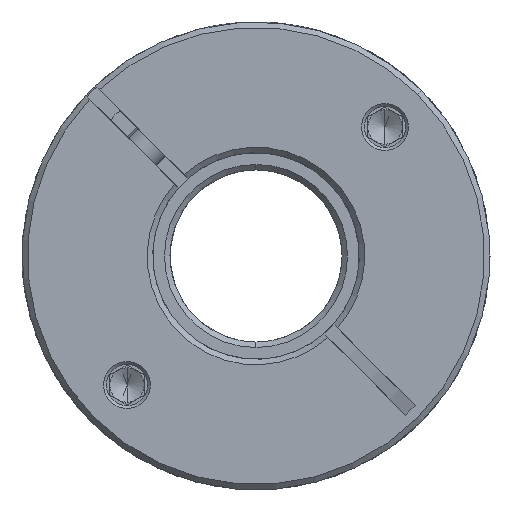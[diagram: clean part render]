
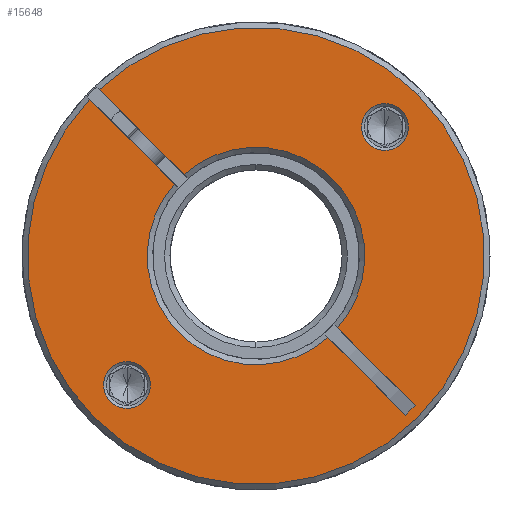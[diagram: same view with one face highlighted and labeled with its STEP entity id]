
A CAD part, front view. The second image highlights one B-rep face of the part: STEP entity #15648.
In plain terms, the highlighted planar face has unit normal (0, -1, 0).
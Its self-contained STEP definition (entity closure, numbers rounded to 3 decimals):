
#37 = CIRCLE ( 'NONE', #16835, 15.8 ) ;
#88 = EDGE_CURVE ( 'NONE', #16631, #2455, #12525, .T. ) ;
#178 = LINE ( 'NONE', #15528, #18793 ) ;
#879 = DIRECTION ( 'NONE',  ( 0., -1., 0. ) ) ;
#896 = CIRCLE ( 'NONE', #3290, 3.4 ) ;
#1016 = DIRECTION ( 'NONE',  ( 0., 1., 0. ) ) ;
#1333 = LINE ( 'NONE', #15058, #12676 ) ;
#1361 = FACE_BOUND ( 'NONE', #19782, .T. ) ;
#1495 = AXIS2_PLACEMENT_3D ( 'NONE', #21302, #13028, #6306 ) ;
#1573 = CARTESIAN_POINT ( 'NONE',  ( -3.442, -67.045, 67.293 ) ) ;
#1710 = CARTESIAN_POINT ( 'NONE',  ( -26.908, -67.045, 90.758 ) ) ;
#2184 = DIRECTION ( 'NONE',  ( 0., 1., 0. ) ) ;
#2455 = VERTEX_POINT ( 'NONE', #10154 ) ;
#2552 = EDGE_CURVE ( 'NONE', #16631, #19634, #18949, .T. ) ;
#2556 = VERTEX_POINT ( 'NONE', #8874 ) ;
#2593 = ORIENTED_EDGE ( 'NONE', *, *, #12076, .T. ) ;
#2841 = ORIENTED_EDGE ( 'NONE', *, *, #20133, .T. ) ;
#2913 = DIRECTION ( 'NONE',  ( 0.707, 0., 0.707 ) ) ;
#3180 = FACE_BOUND ( 'NONE', #4713, .T. ) ;
#3290 = AXIS2_PLACEMENT_3D ( 'NONE', #13063, #9666, #14770 ) ;
#3976 = CARTESIAN_POINT ( 'NONE',  ( 20.741, -67.045, 91.476 ) ) ;
#4090 = ORIENTED_EDGE ( 'NONE', *, *, #8943, .T. ) ;
#4272 = DIRECTION ( 'NONE',  ( 0.707, 0., 0.707 ) ) ;
#4320 = AXIS2_PLACEMENT_3D ( 'NONE', #11664, #14758, #13401 ) ;
#4441 = AXIS2_PLACEMENT_3D ( 'NONE', #9464, #4707, #2913 ) ;
#4645 = ORIENTED_EDGE ( 'NONE', *, *, #9020, .T. ) ;
#4707 = DIRECTION ( 'NONE',  ( 0., -1., 0. ) ) ;
#4713 = EDGE_LOOP ( 'NONE', ( #4645, #17930 ) ) ;
#5714 = CARTESIAN_POINT ( 'NONE',  ( 13.599, -67.045, 84.334 ) ) ;
#6296 = CARTESIAN_POINT ( 'NONE',  ( -14.592, -67.045, 78.443 ) ) ;
#6306 = DIRECTION ( 'NONE',  ( 0.707, 0., 0.707 ) ) ;
#6367 = VECTOR ( 'NONE', #18977, 1000. ) ;
#6809 = DIRECTION ( 'NONE',  ( 0.707, 0., 0.707 ) ) ;
#6918 = DIRECTION ( 'NONE',  ( 0.707, 0., -0.707 ) ) ;
#7101 = ORIENTED_EDGE ( 'NONE', *, *, #2552, .F. ) ;
#7184 = AXIS2_PLACEMENT_3D ( 'NONE', #11113, #1016, #4272 ) ;
#7830 = AXIS2_PLACEMENT_3D ( 'NONE', #15823, #14595, #13018 ) ;
#8403 = CARTESIAN_POINT ( 'NONE',  ( 16.003, -67.045, 86.738 ) ) ;
#8427 = EDGE_CURVE ( 'NONE', #2556, #19334, #896, .T. ) ;
#8552 = EDGE_CURVE ( 'NONE', #20358, #17697, #11213, .T. ) ;
#8610 = CARTESIAN_POINT ( 'NONE',  ( 9.122, -67.045, 57.557 ) ) ;
#8859 = ORIENTED_EDGE ( 'NONE', *, *, #14654, .T. ) ;
#8874 = CARTESIAN_POINT ( 'NONE',  ( -19.069, -67.045, 51.666 ) ) ;
#8938 = DIRECTION ( 'NONE',  ( 0.707, 0., -0.707 ) ) ;
#8943 = EDGE_CURVE ( 'NONE', #19334, #2556, #14819, .T. ) ;
#9020 = EDGE_CURVE ( 'NONE', #17307, #18140, #18443, .T. ) ;
#9335 = EDGE_CURVE ( 'NONE', #11578, #11784, #37, .T. ) ;
#9464 = CARTESIAN_POINT ( 'NONE',  ( -2.735, -67.045, 68. ) ) ;
#9541 = AXIS2_PLACEMENT_3D ( 'NONE', #8403, #19942, #6809 ) ;
#9666 = DIRECTION ( 'NONE',  ( 0., 1., 0. ) ) ;
#9738 = CIRCLE ( 'NONE', #17482, 33.2 ) ;
#9751 = EDGE_CURVE ( 'NONE', #14396, #14468, #1333, .T. ) ;
#9797 = VERTEX_POINT ( 'NONE', #15624 ) ;
#9810 = CARTESIAN_POINT ( 'NONE',  ( 7.708, -67.045, 56.143 ) ) ;
#10154 = CARTESIAN_POINT ( 'NONE',  ( -26.211, -67.045, 44.524 ) ) ;
#10291 = DIRECTION ( 'NONE',  ( 0.707, 0., 0.707 ) ) ;
#10319 = ORIENTED_EDGE ( 'NONE', *, *, #17282, .T. ) ;
#10321 = CARTESIAN_POINT ( 'NONE',  ( -2.735, -67.045, 68. ) ) ;
#10752 = EDGE_CURVE ( 'NONE', #18140, #17307, #14957, .T. ) ;
#10819 = ORIENTED_EDGE ( 'NONE', *, *, #9751, .T. ) ;
#10885 = DIRECTION ( 'NONE',  ( 0., 1., 0. ) ) ;
#11025 = VERTEX_POINT ( 'NONE', #3976 ) ;
#11113 = CARTESIAN_POINT ( 'NONE',  ( -21.473, -67.045, 49.262 ) ) ;
#11213 = LINE ( 'NONE', #1573, #11487 ) ;
#11487 = VECTOR ( 'NONE', #13118, 1000. ) ;
#11578 = VERTEX_POINT ( 'NONE', #14034 ) ;
#11664 = CARTESIAN_POINT ( 'NONE',  ( -2.735, -67.045, 68. ) ) ;
#11684 = CARTESIAN_POINT ( 'NONE',  ( -23.878, -67.045, 46.858 ) ) ;
#11784 = VERTEX_POINT ( 'NONE', #17194 ) ;
#12076 = EDGE_CURVE ( 'NONE', #14468, #17697, #178, .T. ) ;
#12143 = DIRECTION ( 'NONE',  ( 0.707, 0., 0.707 ) ) ;
#12260 = CARTESIAN_POINT ( 'NONE',  ( -2.028, -67.045, 68.707 ) ) ;
#12277 = ORIENTED_EDGE ( 'NONE', *, *, #8552, .F. ) ;
#12525 = CIRCLE ( 'NONE', #7830, 33.2 ) ;
#12676 = VECTOR ( 'NONE', #6918, 1000. ) ;
#13018 = DIRECTION ( 'NONE',  ( 0.707, 0., 0.707 ) ) ;
#13028 = DIRECTION ( 'NONE',  ( 0., 1., 0. ) ) ;
#13063 = CARTESIAN_POINT ( 'NONE',  ( -21.473, -67.045, 49.262 ) ) ;
#13118 = DIRECTION ( 'NONE',  ( 0.707, 0., -0.707 ) ) ;
#13160 = ORIENTED_EDGE ( 'NONE', *, *, #8427, .T. ) ;
#13401 = DIRECTION ( 'NONE',  ( 0.707, 0., 0.707 ) ) ;
#14034 = CARTESIAN_POINT ( 'NONE',  ( -13.178, -67.045, 79.857 ) ) ;
#14129 = DIRECTION ( 'NONE',  ( 0.707, 0., 0.707 ) ) ;
#14210 = CARTESIAN_POINT ( 'NONE',  ( -2.735, -67.045, 68. ) ) ;
#14396 = VERTEX_POINT ( 'NONE', #8610 ) ;
#14468 = VERTEX_POINT ( 'NONE', #20488 ) ;
#14507 = CIRCLE ( 'NONE', #1495, 15.8 ) ;
#14514 = FACE_OUTER_BOUND ( 'NONE', #18669, .T. ) ;
#14595 = DIRECTION ( 'NONE',  ( 0., -1., 0. ) ) ;
#14639 = CIRCLE ( 'NONE', #17920, 15.8 ) ;
#14654 = EDGE_CURVE ( 'NONE', #11025, #9797, #16850, .T. ) ;
#14758 = DIRECTION ( 'NONE',  ( 0., -1., 0. ) ) ;
#14770 = DIRECTION ( 'NONE',  ( 0.707, 0., 0.707 ) ) ;
#14792 = ORIENTED_EDGE ( 'NONE', *, *, #17742, .T. ) ;
#14798 = VECTOR ( 'NONE', #8938, 1000. ) ;
#14819 = CIRCLE ( 'NONE', #7184, 3.4 ) ;
#14957 = CIRCLE ( 'NONE', #9541, 3.4 ) ;
#15058 = CARTESIAN_POINT ( 'NONE',  ( -2.028, -67.045, 68.707 ) ) ;
#15528 = CARTESIAN_POINT ( 'NONE',  ( 18.988, -67.045, 44.862 ) ) ;
#15624 = CARTESIAN_POINT ( 'NONE',  ( -25.493, -67.045, 92.172 ) ) ;
#15648 = ADVANCED_FACE ( 'NONE', ( #3180, #1361, #14514 ), #16620, .T. ) ;
#15733 = ORIENTED_EDGE ( 'NONE', *, *, #9335, .T. ) ;
#15780 = CARTESIAN_POINT ( 'NONE',  ( -2.735, -67.045, 68. ) ) ;
#15823 = CARTESIAN_POINT ( 'NONE',  ( -2.735, -67.045, 68. ) ) ;
#16620 = PLANE ( 'NONE',  #4320 ) ;
#16631 = VERTEX_POINT ( 'NONE', #1710 ) ;
#16835 = AXIS2_PLACEMENT_3D ( 'NONE', #15780, #20684, #10291 ) ;
#16850 = CIRCLE ( 'NONE', #4441, 33.2 ) ;
#17194 = CARTESIAN_POINT ( 'NONE',  ( 8.437, -67.045, 79.172 ) ) ;
#17196 = DIRECTION ( 'NONE',  ( -0.707, 0., -0.707 ) ) ;
#17211 = EDGE_CURVE ( 'NONE', #20358, #19634, #14639, .T. ) ;
#17282 = EDGE_CURVE ( 'NONE', #2455, #11025, #9738, .T. ) ;
#17307 = VERTEX_POINT ( 'NONE', #20554 ) ;
#17482 = AXIS2_PLACEMENT_3D ( 'NONE', #14210, #879, #20625 ) ;
#17697 = VERTEX_POINT ( 'NONE', #18916 ) ;
#17742 = EDGE_CURVE ( 'NONE', #9797, #11578, #18234, .T. ) ;
#17920 = AXIS2_PLACEMENT_3D ( 'NONE', #10321, #2184, #12143 ) ;
#17930 = ORIENTED_EDGE ( 'NONE', *, *, #10752, .T. ) ;
#18140 = VERTEX_POINT ( 'NONE', #5714 ) ;
#18234 = LINE ( 'NONE', #12260, #6367 ) ;
#18321 = ORIENTED_EDGE ( 'NONE', *, *, #17211, .T. ) ;
#18443 = CIRCLE ( 'NONE', #19743, 3.4 ) ;
#18669 = EDGE_LOOP ( 'NONE', ( #7101, #19118, #10319, #8859, #14792, #15733, #2841, #10819, #2593, #12277, #18321 ) ) ;
#18793 = VECTOR ( 'NONE', #17196, 1000. ) ;
#18916 = CARTESIAN_POINT ( 'NONE',  ( 18.988, -67.045, 44.862 ) ) ;
#18949 = LINE ( 'NONE', #20389, #14798 ) ;
#18977 = DIRECTION ( 'NONE',  ( 0.707, 0., -0.707 ) ) ;
#19118 = ORIENTED_EDGE ( 'NONE', *, *, #88, .T. ) ;
#19205 = CARTESIAN_POINT ( 'NONE',  ( 16.003, -67.045, 86.738 ) ) ;
#19334 = VERTEX_POINT ( 'NONE', #11684 ) ;
#19634 = VERTEX_POINT ( 'NONE', #6296 ) ;
#19743 = AXIS2_PLACEMENT_3D ( 'NONE', #19205, #10885, #14129 ) ;
#19782 = EDGE_LOOP ( 'NONE', ( #13160, #4090 ) ) ;
#19942 = DIRECTION ( 'NONE',  ( 0., 1., 0. ) ) ;
#20133 = EDGE_CURVE ( 'NONE', #11784, #14396, #14507, .T. ) ;
#20358 = VERTEX_POINT ( 'NONE', #9810 ) ;
#20389 = CARTESIAN_POINT ( 'NONE',  ( -3.442, -67.045, 67.293 ) ) ;
#20488 = CARTESIAN_POINT ( 'NONE',  ( 20.402, -67.045, 46.277 ) ) ;
#20554 = CARTESIAN_POINT ( 'NONE',  ( 18.407, -67.045, 89.142 ) ) ;
#20625 = DIRECTION ( 'NONE',  ( 0.707, 0., 0.707 ) ) ;
#20684 = DIRECTION ( 'NONE',  ( 0., 1., 0. ) ) ;
#21302 = CARTESIAN_POINT ( 'NONE',  ( -2.735, -67.045, 68. ) ) ;
